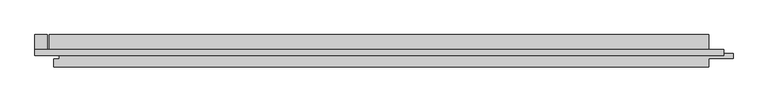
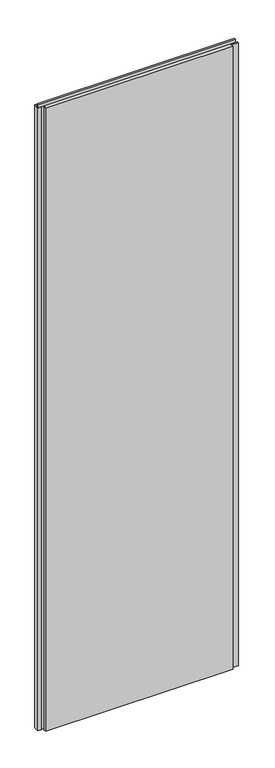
"""IFC4 building model written with IfcOpenShell, lengths in millimetres: plate geometry, Trimo_Qbiss Screen_Normal Panel-VERTICAL : HR - B."""

import ifcopenshell
import ifcopenshell.guid

model = None  # the IFC model being written
_history = None  # IfcOwnerHistory: only IFC2X3 demands one
_inside = {}  # id of a spatial element -> (the spatial element, [elements in it])
_under = {}  # id of a project, library or spatial element -> (it, [spatial elements below it])
_declared = {}  # id of a project -> (the project, [libraries it declares])
_typed = {}  # id of a type object -> (the type object, [elements of that type])
_made_of = {}  # id of a material, layer set ... -> (it, [elements and type objects made of it])


def new_model(schema):
    """Start an empty IFC model of exactly this schema.

    Asked for "IFC4X3", IfcOpenShell would pick the latest addendum, in which some entities
    have other attributes; the version numbers below select the first issue.
    IFC2X3 requires an IfcOwnerHistory on every rooted entity: one is made here for all.
    """
    global model, _history
    if schema == "IFC4X3":
        model = ifcopenshell.file(schema_version=(4, 3, 0, 0))
    else:
        model = ifcopenshell.file(schema=schema)
    _inside.clear()
    _under.clear()
    _declared.clear()
    _typed.clear()
    _made_of.clear()
    _history = None
    if model.schema == "IFC2X3":
        org = make("IfcOrganization", Name="unknown")
        user = make(
            "IfcPersonAndOrganization",
            ThePerson=make("IfcPerson", FamilyName="unknown"),
            TheOrganization=org,
        )
        app = make(
            "IfcApplication",
            ApplicationDeveloper=org,
            Version="unknown",
            ApplicationFullName="unknown",
            ApplicationIdentifier="unknown",
        )
        _history = make(
            "IfcOwnerHistory",
            OwningUser=user,
            OwningApplication=app,
            ChangeAction="ADDED",
            CreationDate=0,
        )
    return model


def make(cls, **values):
    """One entity of the class cls with the attributes given. An attribute that is None is left unset."""
    return model.create_entity(
        cls, **{name: value for name, value in values.items() if value is not None}
    )


def rooted(cls, **values):
    """An entity with a GlobalId (a new one), such as an element, a storey or a relation."""
    return make(cls, GlobalId=ifcopenshell.guid.new(), OwnerHistory=_history, **values)


def si_unit(unit_type, name, prefix=None):
    """IfcSIUnit, for example si_unit("LENGTHUNIT", "METRE", prefix="MILLI")."""
    return make("IfcSIUnit", UnitType=unit_type, Prefix=prefix, Name=name)


def assignment(units):
    """IfcUnitAssignment: the units of a project."""
    return None if units is None else make("IfcUnitAssignment", Units=units)


def point(xyz):
    """IfcCartesianPoint."""
    return None if xyz is None else make("IfcCartesianPoint", Coordinates=xyz)


def direction(xyz):
    """IfcDirection."""
    return None if xyz is None else make("IfcDirection", DirectionRatios=xyz)


def frame(location, z_axis=None, x_axis=None):
    """IfcAxis2Placement3D, a coordinate frame: its origin and axes. An axis left out is left unset."""
    return make(
        "IfcAxis2Placement3D",
        Location=point(location),
        Axis=direction(z_axis),
        RefDirection=direction(x_axis),
    )


def origin():
    """The frame at (0, 0, 0) with its axes left unset."""
    return frame((0.0, 0.0, 0.0))


def place(relative_to, where):
    """IfcLocalPlacement: puts the frame where relative to a parent placement (None: the world)."""
    return make(
        "IfcLocalPlacement", PlacementRelTo=relative_to, RelativePlacement=where
    )


def context(
    kind, dimensions, precision=None, world=None, true_north=None, identifier=None
):
    """IfcGeometricRepresentationContext, for example the 3D "Model" context."""
    return make(
        "IfcGeometricRepresentationContext",
        ContextIdentifier=identifier,
        ContextType=kind,
        CoordinateSpaceDimension=dimensions,
        Precision=precision,
        WorldCoordinateSystem=world,
        TrueNorth=true_north,
    )


def project(units=None, contexts=None):
    """IfcProject with its units and contexts."""
    return rooted(
        "IfcProject",
        Name="project",
        RepresentationContexts=contexts,
        UnitsInContext=assignment(units),
    )


def spatial(cls, under=None, at=None, **own):
    """A site, building, storey or space (cls), placed at a placement, below another one or the project."""
    s = rooted(cls, ObjectPlacement=at, **own)
    if under is not None:
        _under.setdefault(under.id(), (under, []))[1].append(s)
    return s


def polyline(points):
    """IfcPolyline through the points."""
    return make("IfcPolyline", Points=[point(p) for p in points])


def outline(outer, holes=None, kind="AREA"):
    """IfcArbitraryClosedProfileDef: a profile drawn as a closed curve; with holes, ...WithVoids."""
    if holes is None:
        return make("IfcArbitraryClosedProfileDef", ProfileType=kind, OuterCurve=outer)
    return make(
        "IfcArbitraryProfileDefWithVoids",
        ProfileType=kind,
        OuterCurve=outer,
        InnerCurves=holes,
    )


def extrude(swept, where, along, depth):
    """IfcExtrudedAreaSolid: the profile swept, set in the frame where, extruded along a direction by depth."""
    return make(
        "IfcExtrudedAreaSolid",
        SweptArea=swept,
        Position=where,
        ExtrudedDirection=direction(along),
        Depth=depth,
    )


def shape(context_of_items, identifier, shape_type, items):
    """IfcShapeRepresentation: the items that make up one representation, for example the "Body"."""
    return make(
        "IfcShapeRepresentation",
        ContextOfItems=context_of_items,
        RepresentationIdentifier=identifier,
        RepresentationType=shape_type,
        Items=items,
    )


def source(mapping_origin, context_of_items, identifier, shape_type, items):
    """IfcRepresentationMap: a shape defined once, which mapped items show again and again."""
    return make(
        "IfcRepresentationMap",
        MappingOrigin=mapping_origin,
        MappedRepresentation=shape(context_of_items, identifier, shape_type, items),
    )


def transform(
    local_origin,
    x_axis=None,
    y_axis=None,
    z_axis=None,
    scale=None,
    scale2=None,
    scale3=None,
    uniform=True,
):
    """IfcCartesianTransformationOperator3D, or its non-uniform kind. x_axis, y_axis, z_axis: its Axis1, 2, 3."""
    if uniform:
        return make(
            "IfcCartesianTransformationOperator3D",
            Axis1=direction(x_axis),
            Axis2=direction(y_axis),
            LocalOrigin=point(local_origin),
            Scale=scale,
            Axis3=direction(z_axis),
        )
    return make(
        "IfcCartesianTransformationOperator3DnonUniform",
        Axis1=direction(x_axis),
        Axis2=direction(y_axis),
        LocalOrigin=point(local_origin),
        Scale=scale,
        Axis3=direction(z_axis),
        Scale2=scale2,
        Scale3=scale3,
    )


def mapped(mapping_source, mapping_target):
    """IfcMappedItem: shows the shape of a source again, moved by a transform."""
    return make(
        "IfcMappedItem", MappingSource=mapping_source, MappingTarget=mapping_target
    )


def made_of(thing, what):
    """Note that an element or type object is made of a material, layer set ...; save() writes the relation."""
    if what is not None:
        _made_of.setdefault(what.id(), (what, []))[1].append(thing)
    return thing


def element(
    cls,
    number,
    at=None,
    inside=None,
    cuts=None,
    type_object=None,
    material=None,
    context=None,
    identifier="Body",
    shape_type=None,
    held_by="IfcProductDefinitionShape",
    body=None,
    shapes=None,
    **own,
):
    """One element of the class cls, such as IfcWall. Its Tag is "e" and its number.

    at: its placement. inside: the storey or other place that contains it. cuts: it is an
    opening in that element (IfcRelVoidsElement). A single representation is given by context,
    identifier, shape_type and body (its items); several are given by shapes. held_by: the class
    of the entity that holds the representations. save() writes the other relations.
    """
    e = rooted(cls, Tag="e%d" % number, ObjectPlacement=at, **own)
    if body is not None:
        shapes = [shape(context, identifier, shape_type, body)]
    if shapes is not None:
        e.Representation = make(held_by, Representations=shapes)
    if inside is not None:
        _inside.setdefault(inside.id(), (inside, []))[1].append(e)
    if cuts is not None:
        rooted(
            "IfcRelVoidsElement", RelatingBuildingElement=cuts, RelatedOpeningElement=e
        )
    if type_object is not None:
        _typed.setdefault(type_object.id(), (type_object, []))[1].append(e)
    return made_of(e, material)


def aggregate(whole, parts):
    """IfcRelAggregates: a whole, such as a stair, and the parts it consists of."""
    return rooted("IfcRelAggregates", RelatingObject=whole, RelatedObjects=parts)


def save(model, path):
    """Write the relations noted so far, then the file.

    IfcRelAggregates (storeys below a building ...), IfcRelContainedInSpatialStructure (elements
    in a storey), IfcRelDefinesByType, IfcRelAssociatesMaterial and IfcRelDeclares: one each for
    every whole, place, type object, material and project.
    """
    for whole, parts in _under.values():
        aggregate(whole, parts)
    for where, things in _inside.values():
        rooted(
            "IfcRelContainedInSpatialStructure",
            RelatedElements=things,
            RelatingStructure=where,
        )
    for kind, things in _typed.values():
        rooted("IfcRelDefinesByType", RelatedObjects=things, RelatingType=kind)
    for what, things in _made_of.values():
        rooted("IfcRelAssociatesMaterial", RelatedObjects=things, RelatingMaterial=what)
    for by, libraries in _declared.values():
        rooted("IfcRelDeclares", RelatingContext=by, RelatedDefinitions=libraries)
    model.write(path)


def plate_bb0860f9(model_context):
    return source(origin(), model_context, "Body", "SweptSolid", [
        extrude(outline(polyline([(-571.0, 97.0), (-571.0, 126.0), (-552.0, 126.0), (-552.0, 97.0), (-571.0, 97.0)])), frame((0.0, 0.0, 12.5), z_axis=(0.0, 0.0, 1.0), x_axis=(1.0, 0.0, 0.0)), (0.0, 0.0, 1.0), 3575.0),
        extrude(outline(polyline([(478.0, 97.0), (478.0, 102.6), (499.0, 102.6), (499.0, 97.0), (478.0, 97.0)])), frame((0.0, 0.0, 12.5), z_axis=(0.0, 0.0, 1.0), x_axis=(1.0, 0.0, 0.0)), (0.0, 0.0, 1.0), 3575.0),
        extrude(outline(polyline([(-571.0, 93.9), (-571.0, 102.6), (500.0, 102.6), (500.0, 93.9), (-571.0, 93.9)])), frame((0.0, 0.0, 3590.5), z_axis=(0.0, 0.0, 1.0), x_axis=(1.0, 0.0, 0.0)), (0.0, 0.0, 1.0), 19.0),
        extrude(outline(polyline([(477.0, 97.0), (514.5, 97.0), (514.5, 89.0), (477.0, 89.0), (477.0, 76.0), (-542.0, 76.0), (-542.0, 88.0), (-533.5, 88.0), (-533.5, 98.0), (-549.0, 98.0), (-549.0, 126.0), (477.0, 126.0), (477.0, 97.0)])), frame((0.0, 0.0, 12.5), z_axis=(0.0, 0.0, 1.0), x_axis=(1.0, 0.0, 0.0)), (0.0, 0.0, 1.0), 3575.0),
    ])


if __name__ == "__main__":
    model = new_model("IFC4")
    model_context = context("Model", 3, world=origin())
    ifc_project = project(units=[si_unit("LENGTHUNIT", "METRE", prefix="MILLI")], contexts=[model_context])
    site = spatial("IfcSite", under=ifc_project)
    building = spatial("IfcBuilding", under=site)
    placement = place(None, origin())
    plate_shape = plate_bb0860f9(model_context)
    element("IfcPlate", 1, ObjectType="Trimo_Qbiss Screen_Normal Panel-VERTICAL : HR - B", at=placement, inside=building, context=model_context, shape_type="MappedRepresentation", body=[
        mapped(plate_shape, transform((0.0, 0.0, 0.0), x_axis=(1.0, 0.0, 0.0), y_axis=(0.0, 1.0, 0.0), z_axis=(0.0, 0.0, 1.0))),
    ])
    save(model, "model.ifc")
